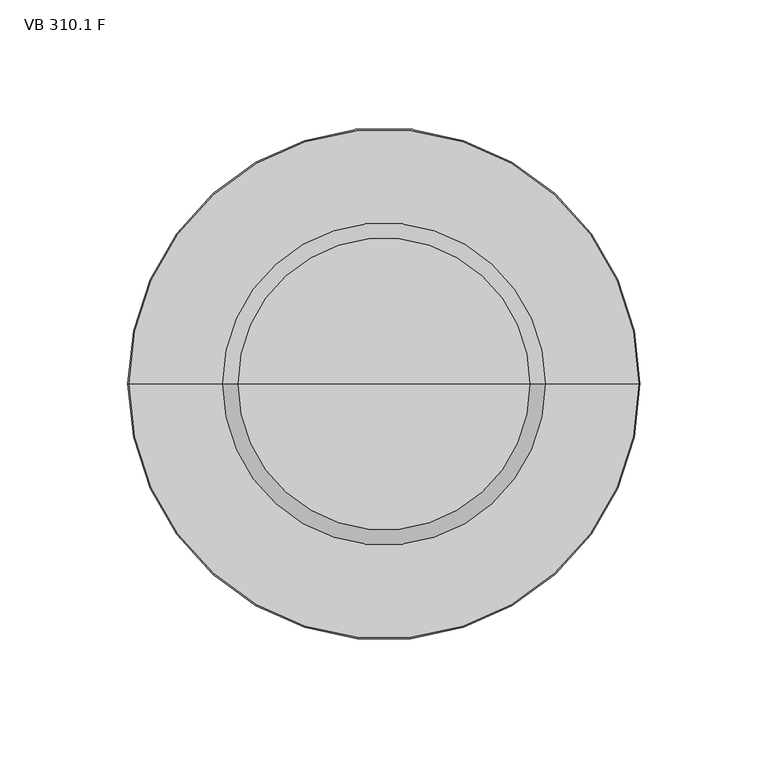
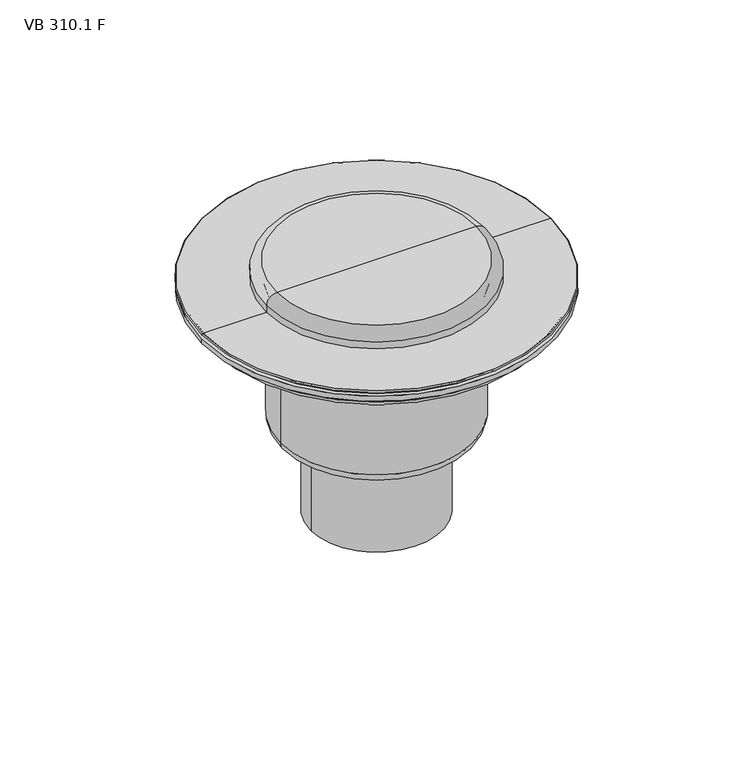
"""IFC4 building model written with IfcOpenShell, lengths in millimetres: flow terminal geometry, BIMLIB_Воронка_Балконная_Fachmann_310СВертикальнымВыпуском : VB 310.1 F."""

from ifc_helpers import new_model, si_unit, point, frame, origin, origin_with_axes, origin_2d, place, context, project, spatial, polyline, circle_curve, ellipse_curve, trimmed, segment, composite_curve, outline, extrude, source, transform, mapped, element, save
from ifc_brep_helpers import plane_surface, cylinder_surface, revolved_surface, advanced_brep


def vb_310_1_f_da64b2c1(model_context):
    return source(origin(), model_context, "Body", "SolidModel", [
        advanced_brep(
        [(0.0, 0.0, 16.0), (57.0, 0.0, 16.0), (-57.0, 0.0, 16.0), (-55.0, 0.0, 3.0), (55.0, 0.0, 3.0), (0.0, 0.0, 3.0), (-55.0, 0.0, 6.0), (55.0, 0.0, 6.0), (-63.0, 0.0, 6.0), (63.0, 0.0, 6.0), (-63.0, 0.0, 10.0), (63.0, 0.0, 10.0)],
        [
            (0, 1),
            (1, 2, circle_curve(frame((0.0, 0.0, 16.0), z_axis=(0.0, 0.0, 1.0), x_axis=(1.0, 0.0, 0.0)), 57.0)),
            (2, 0),
            (2, 1, circle_curve(frame((0.0, 0.0, 16.0), z_axis=(0.0, 0.0, 1.0), x_axis=(1.0, 0.0, 0.0)), 57.0)),
            (3, 4, circle_curve(frame((0.0, 0.0, 3.0), z_axis=(0.0, 0.0, -1.0), x_axis=(1.0, 0.0, 0.0)), 55.0)),
            (4, 5),
            (5, 3),
            (4, 3, circle_curve(frame((0.0, 0.0, 3.0), z_axis=(0.0, 0.0, -1.0), x_axis=(1.0, 0.0, 0.0)), 55.0)),
            (6, 7, circle_curve(frame((0.0, 0.0, 6.0), z_axis=(0.0, 0.0, -1.0), x_axis=(1.0, 0.0, 0.0)), 55.0)),
            (7, 4),
            (3, 6),
            (7, 6, circle_curve(frame((0.0, 0.0, 6.0), z_axis=(0.0, 0.0, -1.0), x_axis=(1.0, 0.0, 0.0)), 55.0)),
            (8, 9, circle_curve(frame((0.0, 0.0, 6.0), z_axis=(0.0, 0.0, -1.0), x_axis=(1.0, 0.0, 0.0)), 63.0)),
            (9, 7),
            (6, 8),
            (9, 8, circle_curve(frame((0.0, 0.0, 6.0), z_axis=(0.0, 0.0, -1.0), x_axis=(1.0, 0.0, 0.0)), 63.0)),
            (10, 11, circle_curve(frame((0.0, 0.0, 10.0), z_axis=(0.0, 0.0, -1.0), x_axis=(1.0, 0.0, 0.0)), 63.0)),
            (11, 9),
            (8, 10),
            (11, 10, circle_curve(frame((0.0, 0.0, 10.0), z_axis=(0.0, 0.0, -1.0), x_axis=(1.0, 0.0, 0.0)), 63.0)),
            (1, 11, circle_curve(frame((57.0, 0.0, 10.0), z_axis=(0.0, 1.0, 0.0), x_axis=(1.0, 0.0, 0.0)), 6.0)),
            (10, 2, circle_curve(frame((-57.0, 0.0, 10.0), z_axis=(0.0, 1.0, 0.0), x_axis=(-1.0, 0.0, 0.0)), 6.0)),
        ],
        [
            plane_surface(frame((0.0, 0.0, 16.0), z_axis=(0.0, 0.0, 1.0), x_axis=(1.0, 0.0, 0.0))),
            plane_surface(frame((0.0, 0.0, 3.0), z_axis=(0.0, 0.0, -1.0), x_axis=(1.0, 0.0, 0.0))),
            cylinder_surface(frame((0.0, 0.0, 2214.3150031), z_axis=(0.0, 0.0, 1.0), x_axis=(1.0, 0.0, 0.0)), 55.0),
            plane_surface(frame((0.0, 0.0, 6.0), z_axis=(0.0, 0.0, -1.0), x_axis=(1.0, 0.0, 0.0))),
            cylinder_surface(frame((0.0, 0.0, 2214.3150031), z_axis=(0.0, 0.0, 1.0), x_axis=(1.0, 0.0, 0.0)), 63.0),
            revolved_surface(trimmed(ellipse_curve(frame((57.0, 0.0, 10.0), z_axis=(0.0, -1.0, 0.0), x_axis=(1.0, 0.0, 0.0)), 6.0, 6.0), [point((63.0, 0.0, 10.0))], [point((57.0, 0.0, 16.0))], True, "CARTESIAN"), (0.0, 0.0, 2214.3150031), (0.0, 0.0, 1.0)),
        ],
        [
            (0, [[1, 2, 3]]),
            (0, [[-3, 4, -1]]),
            (1, [[5, 6, 7]]),
            (1, [[8, -7, -6]]),
            (2, [[9, 10, -5, 11]]),
            (2, [[12, -11, -8, -10]]),
            (3, [[13, 14, -9, 15]]),
            (3, [[16, -15, -12, -14]]),
            (4, [[17, 18, -13, 19]]),
            (4, [[20, -19, -16, -18]]),
            (5, [[-2, 21, -17, 22]]),
            (5, [[-4, -22, -20, -21]]),
        ],
    ),
        advanced_brep(
        [(-57.0, 0.0, 6.0), (57.0, 0.0, 6.0), (99.5, 0.0, 6.0), (-99.5, 0.0, 6.0), (-56.0, 0.0, 5.0), (56.0, 0.0, 5.0), (-56.0, 0.0, 3.0), (56.0, 0.0, 3.0), (-97.5, 0.0, 3.0), (97.5, 0.0, 3.0), (-99.5, 0.0, 5.0), (99.5, 0.0, 5.0)],
        [
            (0, 1, circle_curve(frame((0.0, 0.0, 6.0), z_axis=(0.0, 0.0, -1.0), x_axis=(1.0, 0.0, 0.0)), 57.0)),
            (1, 2),
            (2, 3, circle_curve(frame((0.0, 0.0, 6.0), z_axis=(0.0, 0.0, 1.0), x_axis=(1.0, 0.0, 0.0)), 99.5)),
            (3, 0),
            (1, 0, circle_curve(frame((0.0, 0.0, 6.0), z_axis=(0.0, 0.0, -1.0), x_axis=(1.0, 0.0, 0.0)), 57.0)),
            (3, 2, circle_curve(frame((0.0, 0.0, 6.0), z_axis=(0.0, 0.0, 1.0), x_axis=(1.0, 0.0, 0.0)), 99.5)),
            (4, 5, circle_curve(frame((0.0, 0.0, 5.0), z_axis=(0.0, 0.0, -1.0), x_axis=(1.0, 0.0, 0.0)), 56.0)),
            (5, 1, circle_curve(frame((57.0, 0.0, 5.0), z_axis=(0.0, 1.0, 0.0), x_axis=(1.0, 0.0, 0.0)), 1.0)),
            (0, 4, circle_curve(frame((-57.0, 0.0, 5.0), z_axis=(0.0, 1.0, 0.0), x_axis=(-1.0, 0.0, 0.0)), 1.0)),
            (5, 4, circle_curve(frame((0.0, 0.0, 5.0), z_axis=(0.0, 0.0, -1.0), x_axis=(1.0, 0.0, 0.0)), 56.0)),
            (6, 7, circle_curve(frame((0.0, 0.0, 3.0), z_axis=(0.0, 0.0, -1.0), x_axis=(1.0, 0.0, 0.0)), 56.0)),
            (7, 5),
            (4, 6),
            (7, 6, circle_curve(frame((0.0, 0.0, 3.0), z_axis=(0.0, 0.0, -1.0), x_axis=(1.0, 0.0, 0.0)), 56.0)),
            (8, 9, circle_curve(frame((0.0, 0.0, 3.0), z_axis=(0.0, 0.0, -1.0), x_axis=(1.0, 0.0, 0.0)), 97.5)),
            (9, 7),
            (6, 8),
            (9, 8, circle_curve(frame((0.0, 0.0, 3.0), z_axis=(0.0, 0.0, -1.0), x_axis=(1.0, 0.0, 0.0)), 97.5)),
            (10, 11, circle_curve(frame((0.0, 0.0, 5.0), z_axis=(0.0, 0.0, -1.0), x_axis=(1.0, 0.0, 0.0)), 99.5)),
            (11, 9, circle_curve(frame((99.5, 0.0, 3.0), z_axis=(0.0, -1.0, 0.0), x_axis=(1.0, 0.0, 0.0)), 2.0)),
            (8, 10, circle_curve(frame((-99.5, 0.0, 3.0), z_axis=(0.0, -1.0, 0.0), x_axis=(-1.0, 0.0, 0.0)), 2.0)),
            (11, 10, circle_curve(frame((0.0, 0.0, 5.0), z_axis=(0.0, 0.0, -1.0), x_axis=(1.0, 0.0, 0.0)), 99.5)),
            (2, 11, circle_curve(frame((99.5, 0.0, 5.5), z_axis=(0.0, 1.0, 0.0), x_axis=(1.0, 0.0, 0.0)), 0.5)),
            (10, 3, circle_curve(frame((-99.5, 0.0, 5.5), z_axis=(0.0, 1.0, 0.0), x_axis=(-1.0, 0.0, 0.0)), 0.5)),
        ],
        [
            plane_surface(frame((0.0, 0.0, 6.0), z_axis=(0.0, 0.0, 1.0), x_axis=(1.0, 0.0, 0.0))),
            revolved_surface(trimmed(ellipse_curve(frame((57.0, 0.0, 5.0), z_axis=(0.0, -1.0, 0.0), x_axis=(1.0, 0.0, 0.0)), 1.0, 1.0), [point((57.0, 0.0, 6.0))], [point((56.0, 0.0, 5.0))], True, "CARTESIAN"), (0.0, 0.0, 2214.3150031), (0.0, 0.0, 1.0)),
            revolved_surface(polyline([(56.0, 0.0, 5.0), (56.0, 0.0, 3.0)]), (0.0, 0.0, 2214.3150031), (0.0, 0.0, 1.0)),
            plane_surface(frame((0.0, 0.0, 3.0), z_axis=(0.0, 0.0, -1.0), x_axis=(1.0, 0.0, 0.0))),
            revolved_surface(trimmed(ellipse_curve(frame((99.5, 0.0, 3.0), z_axis=(0.0, 1.0, 0.0), x_axis=(1.0, 0.0, 0.0)), 2.0, 2.0), [point((97.5, 0.0, 3.0))], [point((99.5, 0.0, 5.0))], True, "CARTESIAN"), (0.0, 0.0, 2214.3150031), (0.0, 0.0, 1.0)),
            revolved_surface(trimmed(ellipse_curve(frame((99.5, 0.0, 5.5), z_axis=(0.0, -1.0, 0.0), x_axis=(1.0, 0.0, 0.0)), 0.5, 0.5), [point((99.5, 0.0, 5.0))], [point((99.5, 0.0, 6.0))], True, "CARTESIAN"), (0.0, 0.0, 2214.3150031), (0.0, 0.0, 1.0)),
        ],
        [
            (0, [[1, 2, 3, 4]]),
            (0, [[5, -4, 6, -2]]),
            (1, [[7, 8, -1, 9]]),
            (1, [[10, -9, -5, -8]]),
            (2, [[11, 12, -7, 13]]),
            (2, [[14, -13, -10, -12]]),
            (3, [[15, 16, -11, 17]]),
            (3, [[18, -17, -14, -16]]),
            (4, [[19, 20, -15, 21]]),
            (4, [[22, -21, -18, -20]]),
            (5, [[-3, 23, -19, 24]]),
            (5, [[-6, -24, -22, -23]]),
        ],
    ),
        extrude(outline(composite_curve([segment(trimmed(circle_curve(origin_2d(), 100.0), [point((-100.0, 0.0))], [point((100.0, 0.0))], False, "CARTESIAN"), True, "CONTINUOUS"), segment(trimmed(circle_curve(origin_2d(), 100.0), [point((100.0, 0.0))], [point((-100.0, 0.0))], False, "CARTESIAN"), True, "CONTINUOUS")], self_intersect=False)), origin_with_axes(), (0.0, 0.0, 1.0), 3.0),
        advanced_brep(
        [(-55.0, 0.0, -76.0), (55.0, 0.0, -76.0), (49.0, 0.0, -82.0), (-49.0, 0.0, -82.0), (-55.0, 0.0, -24.0), (55.0, 0.0, -24.0), (-58.0, 0.0, -24.0), (58.0, 0.0, -24.0), (-95.0, 0.0, 0.0), (95.0, 0.0, 0.0), (95.0, 0.0, -4.0), (-95.0, 0.0, -4.0), (0.0, 0.0, 0.0), (0.0, 0.0, -82.0), (-58.0, 0.0, -7.0), (58.0, 0.0, -7.0), (-92.0, 0.0, -7.0), (92.0, 0.0, -7.0)],
        [
            (0, 1, circle_curve(frame((0.0, 0.0, -76.0), z_axis=(0.0, 0.0, -1.0), x_axis=(1.0, 0.0, 0.0)), 55.0)),
            (1, 2, circle_curve(frame((49.0, 0.0, -76.0), z_axis=(0.0, 1.0, 0.0), x_axis=(1.0, 0.0, 0.0)), 6.0)),
            (2, 3, circle_curve(frame((0.0, 0.0, -82.0), z_axis=(0.0, 0.0, 1.0), x_axis=(1.0, 0.0, 0.0)), 49.0)),
            (3, 0, circle_curve(frame((-49.0, 0.0, -76.0), z_axis=(0.0, 1.0, 0.0), x_axis=(-1.0, 0.0, 0.0)), 6.0)),
            (1, 0, circle_curve(frame((0.0, 0.0, -76.0), z_axis=(0.0, 0.0, -1.0), x_axis=(1.0, 0.0, 0.0)), 55.0)),
            (3, 2, circle_curve(frame((0.0, 0.0, -82.0), z_axis=(0.0, 0.0, 1.0), x_axis=(1.0, 0.0, 0.0)), 49.0)),
            (4, 5, circle_curve(frame((0.0, 0.0, -24.0), z_axis=(0.0, 0.0, -1.0), x_axis=(1.0, 0.0, 0.0)), 55.0)),
            (5, 1),
            (0, 4),
            (5, 4, circle_curve(frame((0.0, 0.0, -24.0), z_axis=(0.0, 0.0, -1.0), x_axis=(1.0, 0.0, 0.0)), 55.0)),
            (6, 7, circle_curve(frame((0.0, 0.0, -24.0), z_axis=(0.0, 0.0, -1.0), x_axis=(1.0, 0.0, 0.0)), 58.0)),
            (7, 5),
            (4, 6),
            (7, 6, circle_curve(frame((0.0, 0.0, -24.0), z_axis=(0.0, 0.0, -1.0), x_axis=(1.0, 0.0, 0.0)), 58.0)),
            (8, 9, circle_curve(frame((0.0, 0.0, 0.0), z_axis=(0.0, 0.0, -1.0), x_axis=(1.0, 0.0, 0.0)), 95.0)),
            (9, 10),
            (10, 11, circle_curve(frame((0.0, 0.0, -4.0), z_axis=(0.0, 0.0, 1.0), x_axis=(1.0, 0.0, 0.0)), 95.0)),
            (11, 8),
            (9, 8, circle_curve(frame((0.0, 0.0, 0.0), z_axis=(0.0, 0.0, -1.0), x_axis=(1.0, 0.0, 0.0)), 95.0)),
            (11, 10, circle_curve(frame((0.0, 0.0, -4.0), z_axis=(0.0, 0.0, 1.0), x_axis=(1.0, 0.0, 0.0)), 95.0)),
            (12, 9),
            (8, 12),
            (2, 13),
            (13, 3),
            (14, 15, circle_curve(frame((0.0, 0.0, -7.0), z_axis=(0.0, 0.0, -1.0), x_axis=(1.0, 0.0, 0.0)), 58.0)),
            (15, 7),
            (6, 14),
            (15, 14, circle_curve(frame((0.0, 0.0, -7.0), z_axis=(0.0, 0.0, -1.0), x_axis=(1.0, 0.0, 0.0)), 58.0)),
            (16, 17, circle_curve(frame((0.0, 0.0, -7.0), z_axis=(0.0, 0.0, -1.0), x_axis=(1.0, 0.0, 0.0)), 92.0)),
            (17, 15),
            (14, 16),
            (17, 16, circle_curve(frame((0.0, 0.0, -7.0), z_axis=(0.0, 0.0, -1.0), x_axis=(1.0, 0.0, 0.0)), 92.0)),
            (10, 17, circle_curve(frame((92.0, 0.0, -4.0), z_axis=(0.0, 1.0, 0.0), x_axis=(1.0, 0.0, 0.0)), 3.0)),
            (16, 11, circle_curve(frame((-92.0, 0.0, -4.0), z_axis=(0.0, 1.0, 0.0), x_axis=(-1.0, 0.0, 0.0)), 3.0)),
        ],
        [
            revolved_surface(trimmed(ellipse_curve(frame((49.0, 0.0, -76.0), z_axis=(0.0, -1.0, 0.0), x_axis=(1.0, 0.0, 0.0)), 6.0, 6.0), [point((49.0, 0.0, -82.0))], [point((55.0, 0.0, -76.0))], True, "CARTESIAN"), (0.0, 0.0, 2214.3150031), (0.0, 0.0, 1.0)),
            cylinder_surface(frame((0.0, 0.0, 2214.3150031), z_axis=(0.0, 0.0, 1.0), x_axis=(1.0, 0.0, 0.0)), 55.0),
            plane_surface(frame((0.0, 0.0, -24.0), z_axis=(0.0, 0.0, -1.0), x_axis=(1.0, 0.0, 0.0))),
            cylinder_surface(frame((0.0, 0.0, 2214.3150031), z_axis=(0.0, 0.0, 1.0), x_axis=(1.0, 0.0, 0.0)), 95.0),
            plane_surface(origin_with_axes()),
            plane_surface(frame((0.0, 0.0, -82.0), z_axis=(0.0, 0.0, -1.0), x_axis=(1.0, 0.0, 0.0))),
            cylinder_surface(frame((0.0, 0.0, 2214.3150031), z_axis=(0.0, 0.0, 1.0), x_axis=(1.0, 0.0, 0.0)), 58.0),
            plane_surface(frame((0.0, 0.0, -7.0), z_axis=(0.0, 0.0, -1.0), x_axis=(1.0, 0.0, 0.0))),
            revolved_surface(trimmed(ellipse_curve(frame((92.0, 0.0, -4.0), z_axis=(0.0, -1.0, 0.0), x_axis=(1.0, 0.0, 0.0)), 3.0, 3.0), [point((92.0, 0.0, -7.0))], [point((95.0, 0.0, -4.0))], True, "CARTESIAN"), (0.0, 0.0, 2214.3150031), (0.0, 0.0, 1.0)),
        ],
        [
            (0, [[1, 2, 3, 4]]),
            (0, [[5, -4, 6, -2]]),
            (1, [[7, 8, -1, 9]]),
            (1, [[10, -9, -5, -8]]),
            (2, [[11, 12, -7, 13]]),
            (2, [[14, -13, -10, -12]]),
            (3, [[15, 16, 17, 18]]),
            (3, [[19, -18, 20, -16]]),
            (4, [[21, -15, 22]]),
            (4, [[-22, -19, -21]]),
            (5, [[-3, 23, 24]]),
            (5, [[-6, -24, -23]]),
            (6, [[25, 26, -11, 27]]),
            (6, [[28, -27, -14, -26]]),
            (7, [[29, 30, -25, 31]]),
            (7, [[32, -31, -28, -30]]),
            (8, [[-17, 33, -29, 34]]),
            (8, [[-20, -34, -32, -33]]),
        ],
    ),
        extrude(outline(composite_curve([segment(trimmed(circle_curve(origin_2d(), 25.0), [point((25.0, 0.0))], [point((-25.0, 0.0))], False, "CARTESIAN"), True, "CONTINUOUS"), segment(trimmed(circle_curve(origin_2d(), 25.0), [point((-25.0, 0.0))], [point((25.0, 0.0))], False, "CARTESIAN"), True, "CONTINUOUS")], self_intersect=False), holes=[composite_curve([segment(trimmed(circle_curve(origin_2d(), 22.0), [point((22.0, 0.0))], [point((-22.0, 0.0))], True, "CARTESIAN"), True, "CONTINUOUS"), segment(trimmed(circle_curve(origin_2d(), 22.0), [point((-22.0, 0.0))], [point((22.0, 0.0))], True, "CARTESIAN"), True, "CONTINUOUS")], self_intersect=False)]), frame((0.0, 0.0, -135.0), z_axis=(0.0, 0.0, 1.0), x_axis=(1.0, 0.0, 0.0)), (0.0, 0.0, 1.0), 53.0),
        extrude(outline(composite_curve([segment(trimmed(circle_curve(origin_2d(), 37.5), [point((37.5, 0.0))], [point((-37.5, 0.0))], False, "CARTESIAN"), True, "CONTINUOUS"), segment(trimmed(circle_curve(origin_2d(), 37.5), [point((-37.5, 0.0))], [point((37.5, 0.0))], False, "CARTESIAN"), True, "CONTINUOUS")], self_intersect=False), holes=[composite_curve([segment(trimmed(circle_curve(origin_2d(), 34.5), [point((34.5, 0.0))], [point((-34.5, 0.0))], True, "CARTESIAN"), True, "CONTINUOUS"), segment(trimmed(circle_curve(origin_2d(), 34.5), [point((-34.5, 0.0))], [point((34.5, 0.0))], True, "CARTESIAN"), True, "CONTINUOUS")], self_intersect=False)]), frame((0.0, 0.0, -135.0), z_axis=(0.0, 0.0, 1.0), x_axis=(1.0, 0.0, 0.0)), (0.0, 0.0, 1.0), 53.0),
    ])


if __name__ == "__main__":
    model = new_model("IFC4")
    model_context = context("Model", 3, world=origin())
    ifc_project = project(units=[si_unit("LENGTHUNIT", "METRE", prefix="MILLI")], contexts=[model_context])
    site = spatial("IfcSite", under=ifc_project)
    building = spatial("IfcBuilding", under=site)
    placement = place(None, origin())
    vb_310_1_f_shape = vb_310_1_f_da64b2c1(model_context)
    element("IfcFlowTerminal", 1, ObjectType="BIMLIB_Воронка_Балконная_Fachmann_310СВертикальнымВыпуском : VB 310.1 F", at=placement, inside=building, context=model_context, shape_type="MappedRepresentation", body=[
        mapped(vb_310_1_f_shape, transform((0.0, 0.0, 0.0), x_axis=(1.0, 0.0, 0.0), y_axis=(0.0, 1.0, 0.0), z_axis=(0.0, 0.0, 1.0))),
    ])
    save(model, "model.ifc")
